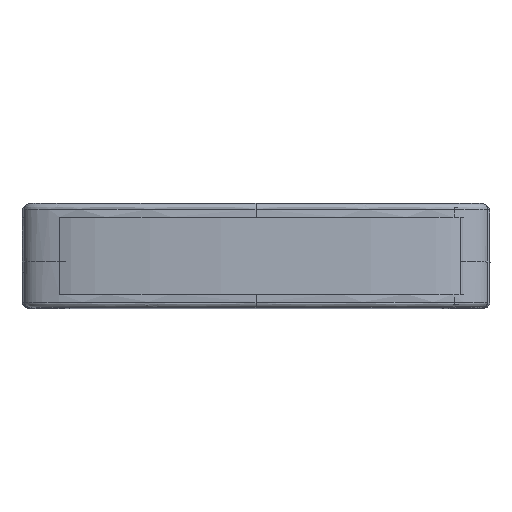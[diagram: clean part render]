
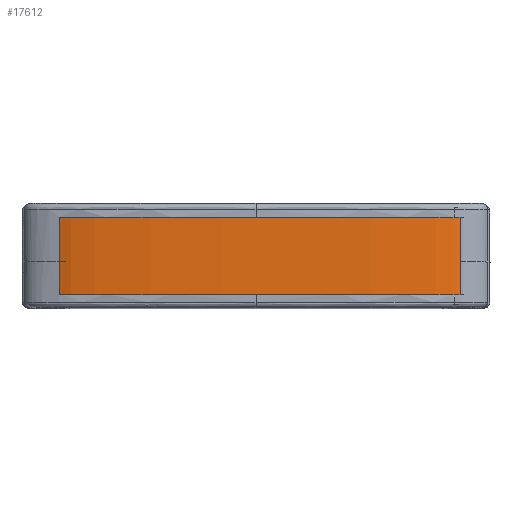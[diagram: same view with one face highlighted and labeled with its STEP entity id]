
A CAD part, top view. The second image highlights one B-rep face of the part: STEP entity #17612.
In plain terms, the highlighted free-form (B-spline) face has degree [3, 1] with [4, 2] control points.
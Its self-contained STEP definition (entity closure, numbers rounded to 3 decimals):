
#57 = CARTESIAN_POINT ( 'NONE',  ( 35.265, 17., -5.164 ) ) ;
#189 = CARTESIAN_POINT ( 'NONE',  ( -44.337, 0., 0. ) ) ;
#1013 = EDGE_CURVE ( 'NONE', #16973, #21799, #14902, .T. ) ;
#2909 = CARTESIAN_POINT ( 'NONE',  ( 35.265, 0., -5.164 ) ) ;
#2919 = VECTOR ( 'NONE', #10689, 1000. ) ;
#4293 = CARTESIAN_POINT ( 'NONE',  ( -44.337, 0., 0. ) ) ;
#5466 = CARTESIAN_POINT ( 'NONE',  ( -44.337, 17., 0. ) ) ;
#5725 = EDGE_LOOP ( 'NONE', ( #12070, #11729, #18184, #8244 ) ) ;
#6490 = B_SPLINE_SURFACE_WITH_KNOTS ( 'NONE', 3, 1, ( 
 ( #7743, #26256 ),
 ( #7390, #13118 ),
 ( #31893, #15829 ),
 ( #34603, #18530 ) ),
 .UNSPECIFIED., .F., .F., .F.,
 ( 4, 4 ),
 ( 2, 2 ),
 ( 0., 1. ),
 ( 0., 1. ),
 .UNSPECIFIED. ) ;
#7390 = CARTESIAN_POINT ( 'NONE',  ( -33.036, 17., -5.164 ) ) ;
#7743 = CARTESIAN_POINT ( 'NONE',  ( -44.337, 17., 0. ) ) ;
#8244 = ORIENTED_EDGE ( 'NONE', *, *, #1013, .T. ) ;
#8439 = B_SPLINE_CURVE_WITH_KNOTS ( 'NONE', 3,
 ( #189, #16274, #2909, #21646 ),
 .UNSPECIFIED., .F., .F.,
 ( 4, 4 ),
 ( 0., 1. ),
 .UNSPECIFIED. ) ;
#10103 = VERTEX_POINT ( 'NONE', #27722 ) ;
#10689 = DIRECTION ( 'NONE',  ( 0., -1., 0. ) ) ;
#11729 = ORIENTED_EDGE ( 'NONE', *, *, #34777, .F. ) ;
#12070 = ORIENTED_EDGE ( 'NONE', *, *, #15544, .T. ) ;
#12579 = CARTESIAN_POINT ( 'NONE',  ( -44.337, 17., 0. ) ) ;
#13118 = CARTESIAN_POINT ( 'NONE',  ( -33.036, 0., -5.164 ) ) ;
#13788 = CARTESIAN_POINT ( 'NONE',  ( 43.163, 17., 0. ) ) ;
#14902 = B_SPLINE_CURVE_WITH_KNOTS ( 'NONE', 3,
 ( #5466, #21514, #57, #24212 ),
 .UNSPECIFIED., .F., .F.,
 ( 4, 4 ),
 ( 0., 1. ),
 .UNSPECIFIED. ) ;
#15544 = EDGE_CURVE ( 'NONE', #21799, #10103, #26415, .T. ) ;
#15829 = CARTESIAN_POINT ( 'NONE',  ( 35.265, 0., -5.164 ) ) ;
#16274 = CARTESIAN_POINT ( 'NONE',  ( -33.036, 0., -5.164 ) ) ;
#16973 = VERTEX_POINT ( 'NONE', #12579 ) ;
#17175 = LINE ( 'NONE', #18677, #2919 ) ;
#17612 = ADVANCED_FACE ( 'NONE', ( #19990 ), #6490, .T. ) ;
#18184 = ORIENTED_EDGE ( 'NONE', *, *, #32454, .F. ) ;
#18530 = CARTESIAN_POINT ( 'NONE',  ( 43.163, 0., 0. ) ) ;
#18677 = CARTESIAN_POINT ( 'NONE',  ( -44.337, 17., 0. ) ) ;
#19990 = FACE_OUTER_BOUND ( 'NONE', #5725, .T. ) ;
#20128 = VECTOR ( 'NONE', #21211, 1000. ) ;
#21211 = DIRECTION ( 'NONE',  ( 0., -1., 0. ) ) ;
#21514 = CARTESIAN_POINT ( 'NONE',  ( -33.036, 17., -5.164 ) ) ;
#21646 = CARTESIAN_POINT ( 'NONE',  ( 43.163, 0., 0. ) ) ;
#21799 = VERTEX_POINT ( 'NONE', #13788 ) ;
#22137 = VERTEX_POINT ( 'NONE', #4293 ) ;
#24212 = CARTESIAN_POINT ( 'NONE',  ( 43.163, 17., 0. ) ) ;
#26256 = CARTESIAN_POINT ( 'NONE',  ( -44.337, 0., 0. ) ) ;
#26415 = LINE ( 'NONE', #31885, #20128 ) ;
#27722 = CARTESIAN_POINT ( 'NONE',  ( 43.163, 0., 0. ) ) ;
#31885 = CARTESIAN_POINT ( 'NONE',  ( 43.163, 17., 0. ) ) ;
#31893 = CARTESIAN_POINT ( 'NONE',  ( 35.265, 17., -5.164 ) ) ;
#32454 = EDGE_CURVE ( 'NONE', #16973, #22137, #17175, .T. ) ;
#34603 = CARTESIAN_POINT ( 'NONE',  ( 43.163, 17., 0. ) ) ;
#34777 = EDGE_CURVE ( 'NONE', #22137, #10103, #8439, .T. ) ;
